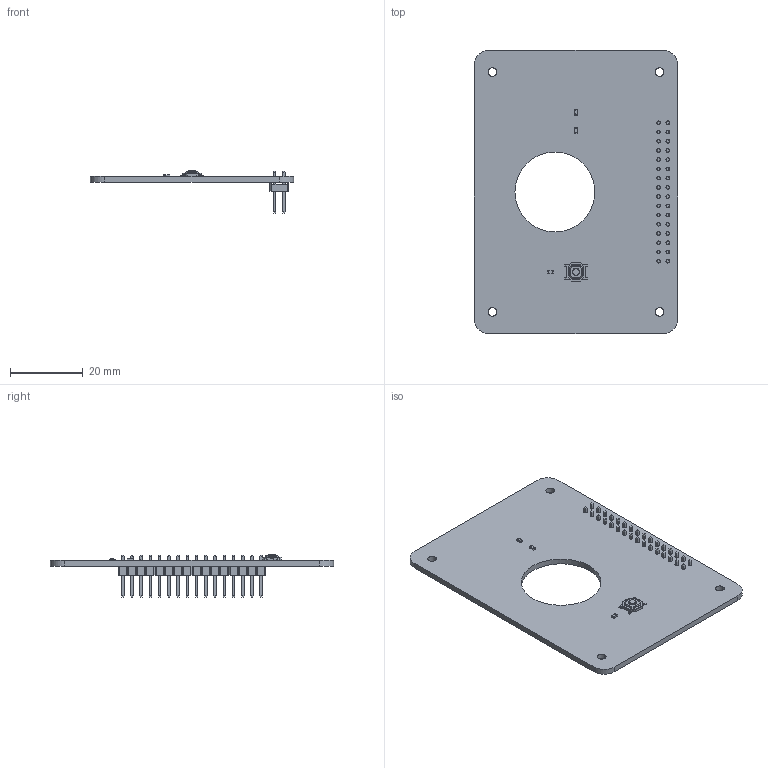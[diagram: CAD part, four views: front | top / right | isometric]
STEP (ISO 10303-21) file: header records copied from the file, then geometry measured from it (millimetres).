
FILE_DESCRIPTION(('Designed by EasyEDA Pro'),'2;1');
FILE_NAME('Open CASCADE Shape Model','2026-10-19T21:33:46',('Author'),( 'Open CASCADE'),'Open CASCADE STEP processor 7.8','Open CASCADE 7.8' ,'Unknown');
FILE_SCHEMA(('AUTOMOTIVE_DESIGN { 1 0 10303 214 1 1 1 1 }'));
Length unit declared in the file: millimetre
Products named in the file (17): EasyEDA PCB Model~alPE; Board~alPE; TopCopper~alPE; BottomCopper~alPE; TopSilkscreen~alPE; BottomSilkscreen~alPE; TopFpcStiffener~alPE; BottomFpcStiffener~alPE; R0603~R0603~NUiI; R2~R0603~R0603~dg3l; R1~R0603~R0603~skle; LED0603-RD~LED0603-RD~nbFy; D1~LED0603-RD~LED0603-RD~6Bzc; SW-SMD_4P-L5.1-W5.1-P3.70-LS6.5-TL_H1.5~SW-SMD_4P-L5.1-W5.1-P3.70-LS6.5-TL_H1.5~gJIg; SW1~SW-SMD_4P-L5.1-W5.1-P3.70-LS6.5-TL_H1.5~SW-SMD_4P-L5.1-W5.1-P3.70-LS6.5-TL_H1.5~Hosp; OusePocket_2x16_MATING_V3~HDR-TH_32P-P2.54-V-M-R2-C16-S2.54~g9Xq; J1~OusePocket_2x16_MATING_V3~HDR-TH_32P-P2.54-V-M-R2-C16-S2.54~ok2O
Assembly tree (17 placements, depth 3):
  EasyEDA PCB Model~alPE
    Board~alPE
    TopCopper~alPE
    BottomCopper~alPE
    TopSilkscreen~alPE
    BottomSilkscreen~alPE
    TopFpcStiffener~alPE
    BottomFpcStiffener~alPE
    R2~R0603~R0603~dg3l
      R0603~R0603~NUiI
    R1~R0603~R0603~skle
      R0603~R0603~NUiI
    D1~LED0603-RD~LED0603-RD~6Bzc
      LED0603-RD~LED0603-RD~nbFy
    SW1~SW-SMD_4P-L5.1-W5.1-P3.70-LS6.5-TL_H1.5~SW-SMD_4P-L5.1-W5.1-P3.70-LS6.5-TL_H1.5~Hosp
      SW-SMD_4P-L5.1-W5.1-P3.70-LS6.5-TL_H1.5~SW-SMD_4P-L5.1-W5.1-P3.70-LS6.5-TL_H1.5~gJIg
    J1~OusePocket_2x16_MATING_V3~HDR-TH_32P-P2.54-V-M-R2-C16-S2.54~ok2O
      OusePocket_2x16_MATING_V3~HDR-TH_32P-P2.54-V-M-R2-C16-S2.54~g9Xq
Bounding box: 55.97 x 77.97 x 11.65 mm (x, y, z)
Volume: 6881.6 mm3; surface area: 10547.4 mm2
Topology: 30 solids, 30 shells, 4268 faces, 11040 edges, 7230 vertices
Faces by surface type: plane 3149, bspline 968, cylinder 137, sphere 12, torus 2
Entity records: 189021 total; most frequent: CARTESIAN_POINT 52953, ORIENTED_EDGE 20658, DIRECTION 15155, EDGE_CURVE 10329, LINE 8295, VECTOR 8295, VERTEX_POINT 6756, EDGE_LOOP 4457
